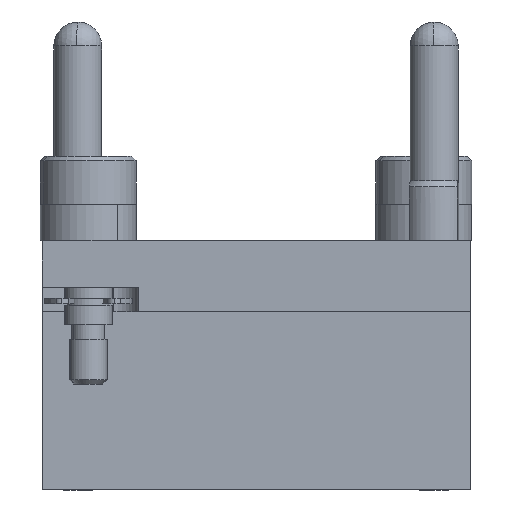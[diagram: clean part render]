
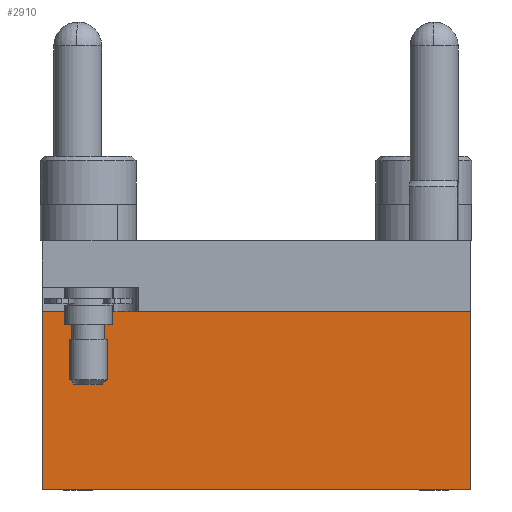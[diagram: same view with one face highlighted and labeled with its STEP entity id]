
A CAD part, front view. The second image highlights one B-rep face of the part: STEP entity #2910.
In plain terms, the highlighted planar face has unit normal (0, -1, 0).
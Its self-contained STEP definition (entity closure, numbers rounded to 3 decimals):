
#1154 = PLANE ( 'NONE',  #40092 ) ;
#1414 = EDGE_CURVE ( 'NONE', #8574, #10201, #25999, .T. ) ;
#1729 = CARTESIAN_POINT ( 'NONE',  ( -14.173, -23.051, -8.255 ) ) ;
#1929 = VERTEX_POINT ( 'NONE', #45117 ) ;
#2910 = ADVANCED_FACE ( 'NONE', ( #44610 ), #1154, .F. ) ;
#2986 = CARTESIAN_POINT ( 'NONE',  ( 14.173, -23.051, 3.556 ) ) ;
#4752 = DIRECTION ( 'NONE',  ( 0., 0., 1. ) ) ;
#4810 = LINE ( 'NONE', #34394, #41185 ) ;
#6747 = VECTOR ( 'NONE', #44556, 1000. ) ;
#8262 = DIRECTION ( 'NONE',  ( 1., 0., 0. ) ) ;
#8574 = VERTEX_POINT ( 'NONE', #15437 ) ;
#9712 = DIRECTION ( 'NONE',  ( 0., 0., -1. ) ) ;
#10201 = VERTEX_POINT ( 'NONE', #2986 ) ;
#10296 = EDGE_CURVE ( 'NONE', #8574, #35657, #39112, .T. ) ;
#14012 = EDGE_CURVE ( 'NONE', #35657, #1929, #33798, .T. ) ;
#15437 = CARTESIAN_POINT ( 'NONE',  ( -14.173, -23.051, 3.556 ) ) ;
#18158 = CARTESIAN_POINT ( 'NONE',  ( 14.173, -23.051, 3.556 ) ) ;
#19915 = CARTESIAN_POINT ( 'NONE',  ( 14.173, -23.051, -8.255 ) ) ;
#20908 = EDGE_LOOP ( 'NONE', ( #25115, #27878, #39753, #35519 ) ) ;
#25115 = ORIENTED_EDGE ( 'NONE', *, *, #14012, .T. ) ;
#25505 = DIRECTION ( 'NONE',  ( 0., 0., -1. ) ) ;
#25856 = DIRECTION ( 'NONE',  ( 0., 1., 0. ) ) ;
#25999 = LINE ( 'NONE', #29367, #44730 ) ;
#27878 = ORIENTED_EDGE ( 'NONE', *, *, #34471, .F. ) ;
#28633 = VECTOR ( 'NONE', #25505, 1000. ) ;
#29367 = CARTESIAN_POINT ( 'NONE',  ( 14.173, -23.051, 3.556 ) ) ;
#33798 = LINE ( 'NONE', #19915, #6747 ) ;
#34394 = CARTESIAN_POINT ( 'NONE',  ( 14.173, -23.051, 3.556 ) ) ;
#34471 = EDGE_CURVE ( 'NONE', #10201, #1929, #4810, .T. ) ;
#35519 = ORIENTED_EDGE ( 'NONE', *, *, #10296, .T. ) ;
#35657 = VERTEX_POINT ( 'NONE', #1729 ) ;
#35988 = CARTESIAN_POINT ( 'NONE',  ( -14.173, -23.051, 3.556 ) ) ;
#39112 = LINE ( 'NONE', #35988, #28633 ) ;
#39753 = ORIENTED_EDGE ( 'NONE', *, *, #1414, .F. ) ;
#40092 = AXIS2_PLACEMENT_3D ( 'NONE', #18158, #25856, #4752 ) ;
#41185 = VECTOR ( 'NONE', #9712, 1000. ) ;
#44556 = DIRECTION ( 'NONE',  ( 1., 0., 0. ) ) ;
#44610 = FACE_OUTER_BOUND ( 'NONE', #20908, .T. ) ;
#44730 = VECTOR ( 'NONE', #8262, 1000. ) ;
#45117 = CARTESIAN_POINT ( 'NONE',  ( 14.173, -23.051, -8.255 ) ) ;
